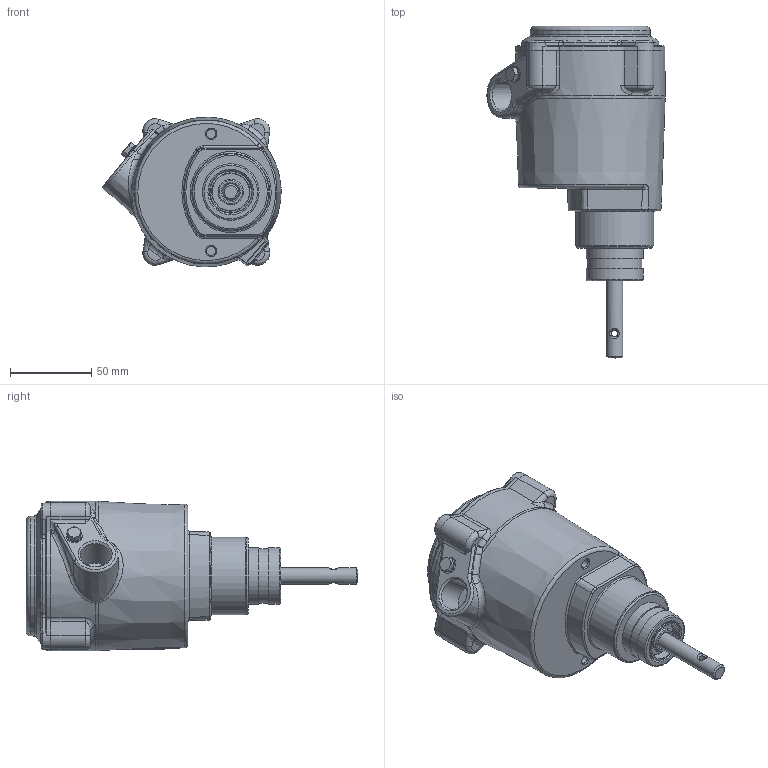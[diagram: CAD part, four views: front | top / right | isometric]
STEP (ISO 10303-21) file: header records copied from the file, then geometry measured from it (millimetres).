
FILE_DESCRIPTION(/* description */ (''),/* implementation_level */ '2;1');
FILE_NAME(/* name */ '\\Srvgest\camlogic\TECNICO\Inventor\Step\2_STEP\PFG09\PFG-09.stp',/* time_stamp */ '2021-10-19T17:21:47+02:00',/* author */ ('nicola.ruozzi'),/* organization */ (''),/* preprocessor_version */ 'ST-DEVELOPER v18.1',/* originating_system */ 'Autodesk Inventor 2022',/* authorisation */ '');
FILE_SCHEMA (('AUTOMOTIVE_DESIGN { 1 0 10303 214 3 1 1 }'));
Length unit declared in the file: millimetre
Products named in the file (1): PFG-09
Bounding box: 109.52 x 203.94 x 91.98 mm (x, y, z)
Volume: 743389.8 mm3; surface area: 60379.1 mm2
Topology: 1 solids, 1 shells, 558 faces, 1428 edges, 891 vertices
Faces by surface type: plane 191, cylinder 139, bspline 91, cone 89, torus 39, sphere 9
Full cylindrical faces by diameter (mm): 5.55 x2, 6.88 x1, 9.4 x1, 10 x3, 10.8 x4, 14.2 x1, 18.631 x1, 23.5 x1, 26 x2, 33.5 x1, 34.8 x2, 47.803 x1
Entity records: 20793 total; most frequent: CARTESIAN_POINT 7057, ORIENTED_EDGE 2840, DIRECTION 2677, EDGE_CURVE 1420, AXIS2_PLACEMENT_3D 1084, VERTEX_POINT 891, EDGE_LOOP 589, CIRCLE 560
